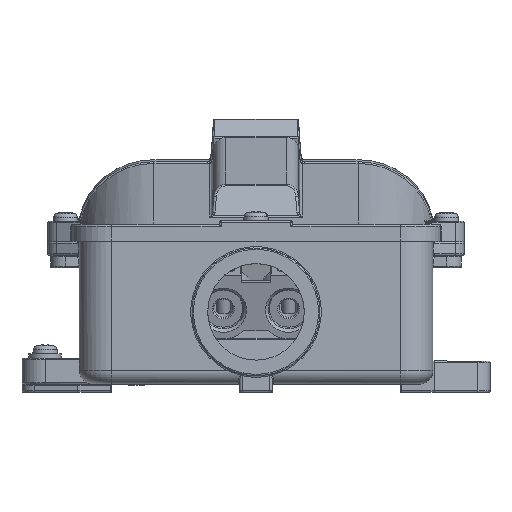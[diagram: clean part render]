
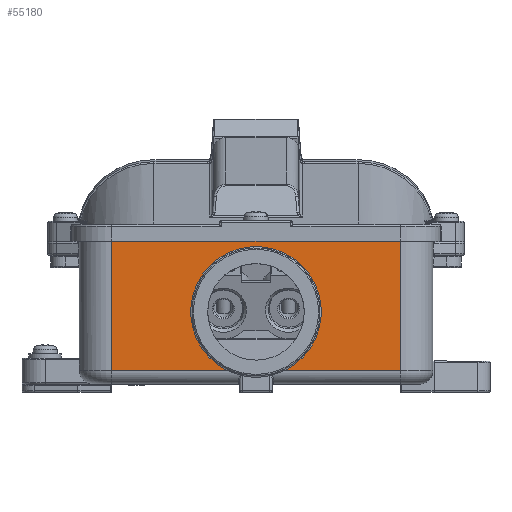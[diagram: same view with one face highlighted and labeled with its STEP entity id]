
A CAD part, top view. The second image highlights one B-rep face of the part: STEP entity #55180.
In plain terms, the highlighted planar face has unit normal (0, 0, 1).
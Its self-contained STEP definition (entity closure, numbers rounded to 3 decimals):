
#20815=CARTESIAN_POINT('',(-53.,58.,-5.5));
#20816=VERTEX_POINT('',#20815);
#20824=CARTESIAN_POINT('',(53.,58.,-5.5));
#20825=VERTEX_POINT('',#20824);
#20826=CARTESIAN_POINT('',(53.,58.,-5.5));
#20827=DIRECTION('',(-1.0,0.0,0.0));
#20828=VECTOR('',#20827,106.0);
#20829=LINE('',#20826,#20828);
#20830=EDGE_CURVE('',#20825,#20816,#20829,.T.);
#44726=CARTESIAN_POINT('',(-10.665,8.,-5.5));
#44727=VERTEX_POINT('',#44726);
#44750=CARTESIAN_POINT('',(10.665,8.,-5.5));
#44751=VERTEX_POINT('',#44750);
#44759=CARTESIAN_POINT('',(0.,29.5,-5.5));
#44760=DIRECTION('',(0.0,0.0,1.0));
#44761=DIRECTION('',(0.0,1.0,0.0));
#44762=AXIS2_PLACEMENT_3D('',#44759,#44760,#44761);
#44763=CIRCLE('',#44762,24.0);
#44764=EDGE_CURVE('',#44751,#44727,#44763,.T.);
#54432=CARTESIAN_POINT('',(-53.,8.,-5.5));
#54433=VERTEX_POINT('',#54432);
#54434=CARTESIAN_POINT('',(-10.665,8.,-5.5));
#54435=DIRECTION('',(-1.0,0.0,0.0));
#54436=VECTOR('',#54435,42.335);
#54437=LINE('',#54434,#54436);
#54438=EDGE_CURVE('',#44727,#54433,#54437,.T.);
#55139=CARTESIAN_POINT('',(53.,8.,-5.5));
#55140=VERTEX_POINT('',#55139);
#55148=CARTESIAN_POINT('',(53.,8.,-5.5));
#55149=DIRECTION('',(-1.0,0.0,0.0));
#55150=VECTOR('',#55149,42.335);
#55151=LINE('',#55148,#55150);
#55152=EDGE_CURVE('',#55140,#44751,#55151,.T.);
#55157=CARTESIAN_POINT('',(53.,3.,-5.5));
#55158=DIRECTION('',(0.0,0.0,1.0));
#55159=DIRECTION('',(0.0,1.0,0.0));
#55160=AXIS2_PLACEMENT_3D('',#55157,#55158,#55159);
#55161=PLANE('',#55160);
#55162=ORIENTED_EDGE('',*,*,#44764,.F.);
#55163=ORIENTED_EDGE('',*,*,#55152,.F.);
#55164=CARTESIAN_POINT('',(53.,8.,-5.5));
#55165=DIRECTION('',(0.0,1.0,0.0));
#55166=VECTOR('',#55165,50.0);
#55167=LINE('',#55164,#55166);
#55168=EDGE_CURVE('',#55140,#20825,#55167,.T.);
#55169=ORIENTED_EDGE('',*,*,#55168,.T.);
#55170=ORIENTED_EDGE('',*,*,#20830,.T.);
#55171=CARTESIAN_POINT('',(-53.,8.,-5.5));
#55172=DIRECTION('',(0.0,1.0,0.0));
#55173=VECTOR('',#55172,50.0);
#55174=LINE('',#55171,#55173);
#55175=EDGE_CURVE('',#54433,#20816,#55174,.T.);
#55176=ORIENTED_EDGE('',*,*,#55175,.F.);
#55177=ORIENTED_EDGE('',*,*,#54438,.F.);
#55178=EDGE_LOOP('',(#55162,#55163,#55169,#55170,#55176,#55177));
#55179=FACE_OUTER_BOUND('',#55178,.T.);
#55180=ADVANCED_FACE('',(#55179),#55161,.T.);
